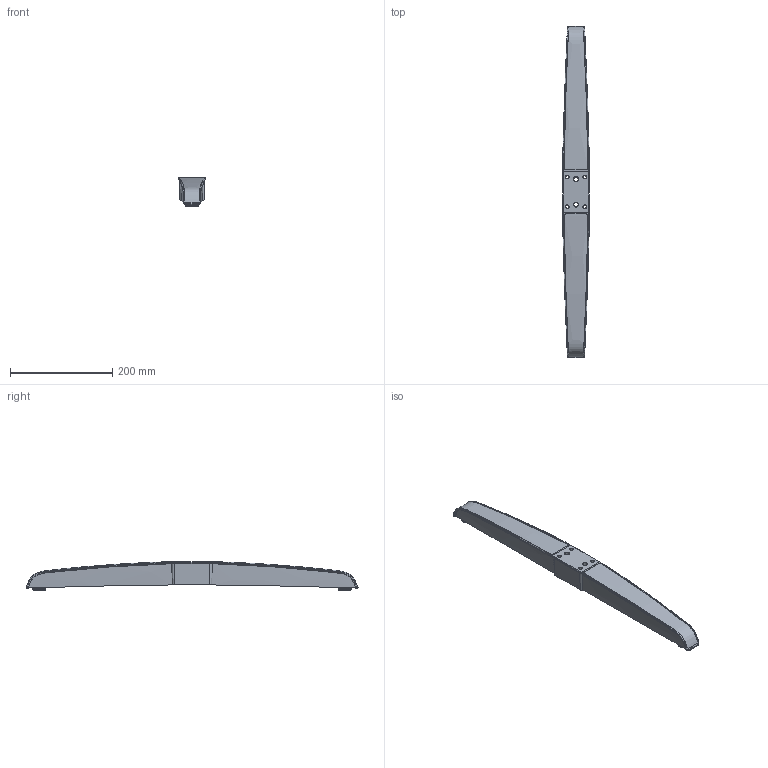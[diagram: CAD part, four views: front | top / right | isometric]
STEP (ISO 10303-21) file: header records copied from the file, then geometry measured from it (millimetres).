
FILE_DESCRIPTION((''),'2;1');
FILE_NAME('1037W4037','2023-06-20T11:46:47',('jak'),(''),'CREO PARAMETRIC BY PTC INC, 2022024','CREO PARAMETRIC BY PTC INC, 2022024','');
FILE_SCHEMA(('AUTOMOTIVE_DESIGN { 1 0 10303 214 1 1 1 1 }'));
Length unit declared in the file: millimetre
Products named in the file (1): 1037W4037
Bounding box: 52 x 649.13 x 56 mm (x, y, z)
Volume: 953690.2 mm3; surface area: 121457.5 mm2
Topology: 1 solids, 3 shells, 1140 faces, 2368 edges, 1260 vertices
Faces by surface type: bspline 348, cylinder 344, torus 316, plane 74, cone 44, extrusion 14
Entity records: 52016 total; most frequent: CARTESIAN_POINT 30104, ORIENTED_EDGE 4736, DIRECTION 4294, EDGE_CURVE 2368, AXIS2_PLACEMENT_3D 1918, VERTEX_POINT 1260, EDGE_LOOP 1178, FACE_OUTER_BOUND 1140
